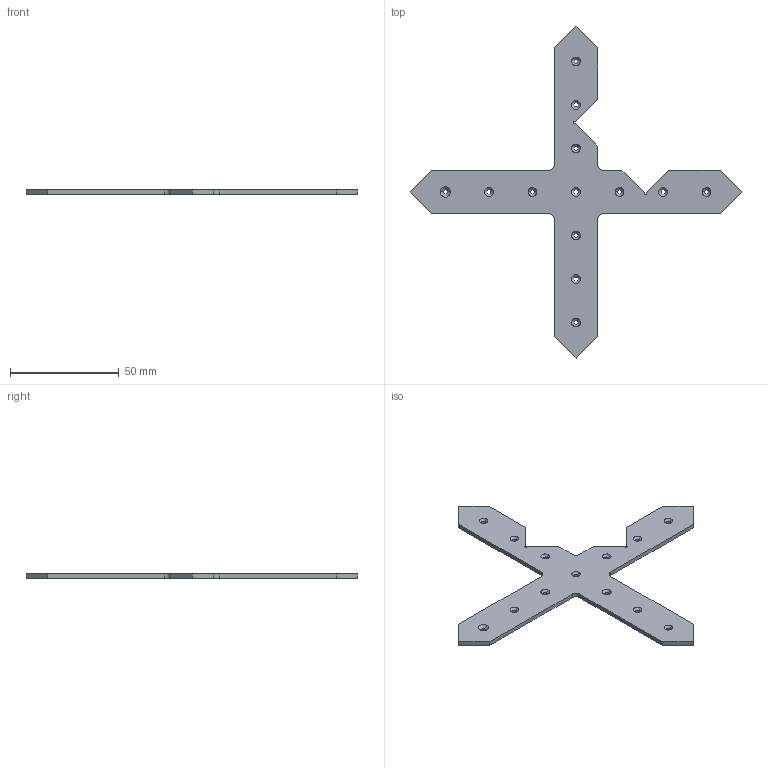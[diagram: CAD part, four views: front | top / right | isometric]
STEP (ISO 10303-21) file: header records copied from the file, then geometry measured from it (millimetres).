
FILE_DESCRIPTION (( 'STEP AP214' ), '1' );
FILE_NAME ('SC38.STEP', '2016-02-27T09:37:20', ( '' ), ( '' ), 'SwSTEP 2.0', 'SolidWorks 2012', '' );
FILE_SCHEMA (( 'AUTOMOTIVE_DESIGN' ));
Length unit declared in the file: millimetre
Products named in the file (1): SC38
Bounding box: 152.5 x 152.5 x 2 mm (x, y, z)
Volume: 10008.8 mm3; surface area: 11358.9 mm2
Topology: 1 solids, 1 shells, 84 faces, 220 edges, 138 vertices
Faces by surface type: cylinder 34, cone 26, plane 24
Entity records: 2676 total; most frequent: DIRECTION 484, CARTESIAN_POINT 443, ORIENTED_EDGE 440, EDGE_CURVE 220, AXIS2_PLACEMENT_3D 179, VERTEX_POINT 138, LINE 126, VECTOR 126
